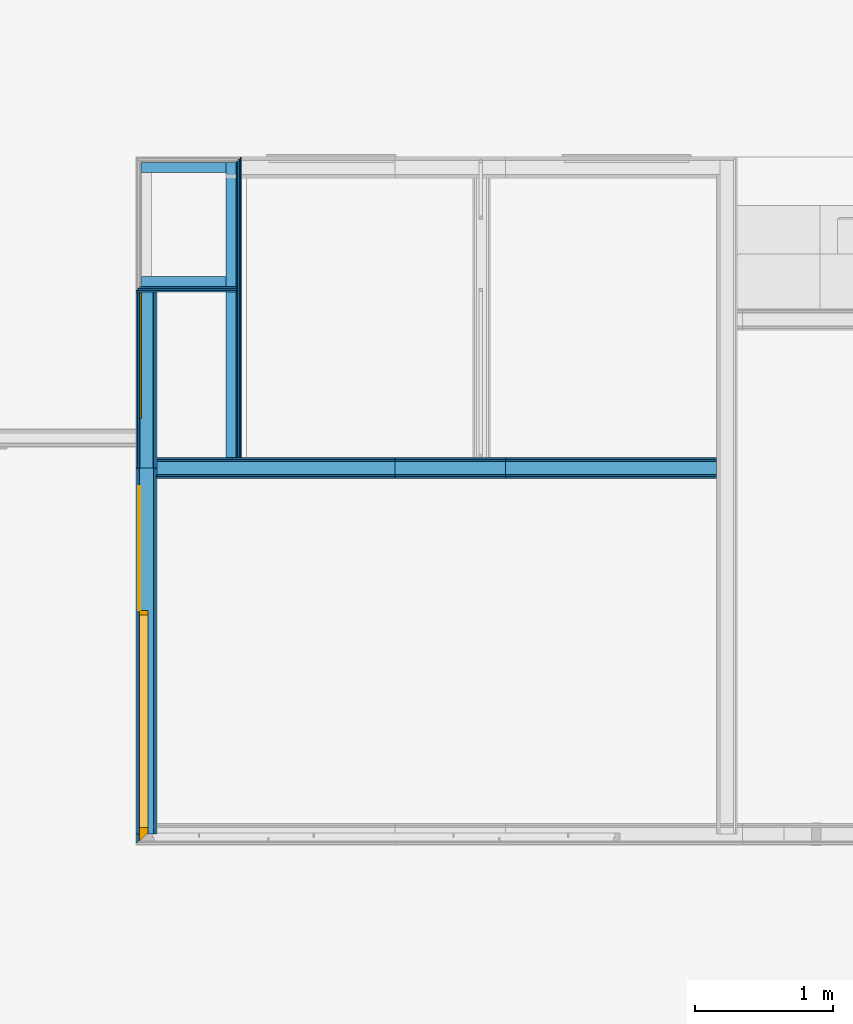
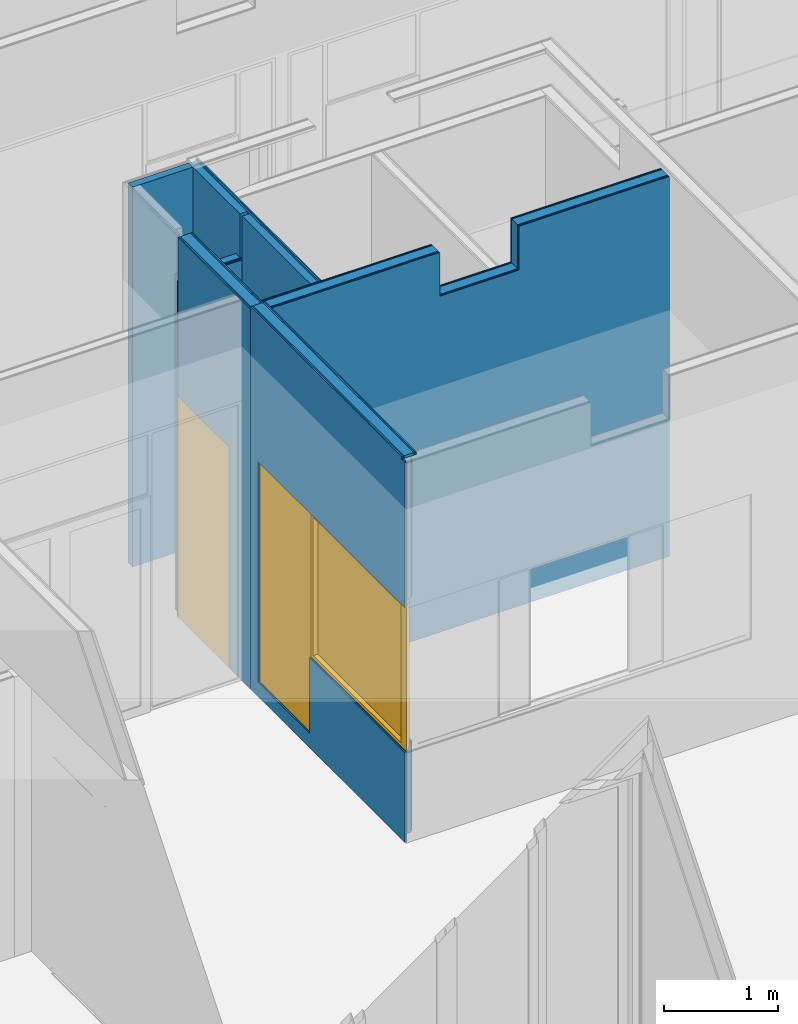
# One storey, part 42 of 109: 24 building element parts, 2 doors, 1 window, 3 openings, 6 elements without a shape of their own.
"""IFC2X3 building model written with IfcOpenShell, lengths in millimetres."""

import ifcopenshell
import ifcopenshell.guid

model = None  # the IFC model being written
_history = None  # IfcOwnerHistory: only IFC2X3 demands one
_inside = {}  # id of a spatial element -> (the spatial element, [elements in it])
_under = {}  # id of a project, library or spatial element -> (it, [spatial elements below it])
_declared = {}  # id of a project -> (the project, [libraries it declares])
_typed = {}  # id of a type object -> (the type object, [elements of that type])
_made_of = {}  # id of a material, layer set ... -> (it, [elements and type objects made of it])


def new_model(schema):
    """Start an empty IFC model of exactly this schema.

    Asked for "IFC4X3", IfcOpenShell would pick the latest addendum, in which some entities
    have other attributes; the version numbers below select the first issue.
    IFC2X3 requires an IfcOwnerHistory on every rooted entity: one is made here for all.
    """
    global model, _history
    if schema == "IFC4X3":
        model = ifcopenshell.file(schema_version=(4, 3, 0, 0))
    else:
        model = ifcopenshell.file(schema=schema)
    _inside.clear()
    _under.clear()
    _declared.clear()
    _typed.clear()
    _made_of.clear()
    _history = None
    if model.schema == "IFC2X3":
        org = make("IfcOrganization", Name="unknown")
        user = make(
            "IfcPersonAndOrganization",
            ThePerson=make("IfcPerson", FamilyName="unknown"),
            TheOrganization=org,
        )
        app = make(
            "IfcApplication",
            ApplicationDeveloper=org,
            Version="unknown",
            ApplicationFullName="unknown",
            ApplicationIdentifier="unknown",
        )
        _history = make(
            "IfcOwnerHistory",
            OwningUser=user,
            OwningApplication=app,
            ChangeAction="ADDED",
            CreationDate=0,
        )
    return model


def make(cls, **values):
    """One entity of the class cls with the attributes given. An attribute that is None is left unset."""
    return model.create_entity(
        cls, **{name: value for name, value in values.items() if value is not None}
    )


def entity(cls, *values):
    """Any entity or typed value of the class cls, its attributes in the order of the schema. None: left unset."""
    e = model.create_entity(cls)
    for i, value in enumerate(values):
        if value is not None:
            e[i] = value
    return e


def rooted(cls, **values):
    """An entity with a GlobalId (a new one), such as an element, a storey or a relation."""
    return make(cls, GlobalId=ifcopenshell.guid.new(), OwnerHistory=_history, **values)


def si_unit(unit_type, name, prefix=None):
    """IfcSIUnit, for example si_unit("LENGTHUNIT", "METRE", prefix="MILLI")."""
    return make("IfcSIUnit", UnitType=unit_type, Prefix=prefix, Name=name)


def converted_unit(unit_type, name, factor, base, dimensions=None, offset=None):
    """IfcConversionBasedUnit, such as the inch: factor (a typed value) times the base unit."""
    return make(
        "IfcConversionBasedUnit"
        if offset is None
        else "IfcConversionBasedUnitWithOffset",
        ConversionOffset=offset,
        Dimensions=None
        if dimensions is None
        else entity("IfcDimensionalExponents", *dimensions),
        UnitType=unit_type,
        Name=name,
        ConversionFactor=make(
            "IfcMeasureWithUnit", ValueComponent=factor, UnitComponent=base
        ),
    )


def derived_unit(unit_type, elements):
    """IfcDerivedUnit: a product of units, each with its exponent."""
    return make(
        "IfcDerivedUnit",
        Elements=[
            make("IfcDerivedUnitElement", Unit=unit, Exponent=power)
            for unit, power in elements
        ],
        UnitType=unit_type,
    )


def money_unit(currency):
    """IfcMonetaryUnit."""
    return make("IfcMonetaryUnit", Currency=currency)


def assignment(units):
    """IfcUnitAssignment: the units of a project."""
    return None if units is None else make("IfcUnitAssignment", Units=units)


def point(xyz):
    """IfcCartesianPoint."""
    return None if xyz is None else make("IfcCartesianPoint", Coordinates=xyz)


def direction(xyz):
    """IfcDirection."""
    return None if xyz is None else make("IfcDirection", DirectionRatios=xyz)


def frame(location, z_axis=None, x_axis=None):
    """IfcAxis2Placement3D, a coordinate frame: its origin and axes. An axis left out is left unset."""
    return make(
        "IfcAxis2Placement3D",
        Location=point(location),
        Axis=direction(z_axis),
        RefDirection=direction(x_axis),
    )


def origin_with_axes():
    """The frame at (0, 0, 0) with the z axis (0, 0, 1) and the x axis (1, 0, 0) written out."""
    return frame((0.0, 0.0, 0.0), z_axis=(0.0, 0.0, 1.0), x_axis=(1.0, 0.0, 0.0))


def place(relative_to, where):
    """IfcLocalPlacement: puts the frame where relative to a parent placement (None: the world)."""
    return make(
        "IfcLocalPlacement", PlacementRelTo=relative_to, RelativePlacement=where
    )


def context(
    kind, dimensions, precision=None, world=None, true_north=None, identifier=None
):
    """IfcGeometricRepresentationContext, for example the 3D "Model" context."""
    return make(
        "IfcGeometricRepresentationContext",
        ContextIdentifier=identifier,
        ContextType=kind,
        CoordinateSpaceDimension=dimensions,
        Precision=precision,
        WorldCoordinateSystem=world,
        TrueNorth=true_north,
    )


def subcontext(parent, identifier, kind, view, scale=None):
    """IfcGeometricRepresentationSubContext, for example "Body" below "Model"."""
    return make(
        "IfcGeometricRepresentationSubContext",
        ContextIdentifier=identifier,
        ContextType=kind,
        ParentContext=parent,
        TargetScale=scale,
        TargetView=view,
    )


def project(units=None, contexts=None):
    """IfcProject with its units and contexts."""
    return rooted(
        "IfcProject",
        Name="project",
        RepresentationContexts=contexts,
        UnitsInContext=assignment(units),
    )


def spatial(cls, under=None, at=None, **own):
    """A site, building, storey or space (cls), placed at a placement, below another one or the project."""
    s = rooted(cls, ObjectPlacement=at, **own)
    if under is not None:
        _under.setdefault(under.id(), (under, []))[1].append(s)
    return s


def faces_of(points, faces, orient=None, outer=None):
    """IfcFace entities. A face is a list of loops; a loop is a list of indices into points, from 0.

    orient and outer hold one flag for each loop. By default every Orientation is true, the
    first loop of a face is its IfcFaceOuterBound and the others are IfcFaceBound.
    """
    made = []
    for i, loops in enumerate(faces):
        bounds = []
        for j, loop in enumerate(loops):
            is_outer = j == 0 if outer is None else outer[i][j]
            bounds.append(
                make(
                    "IfcFaceOuterBound" if is_outer else "IfcFaceBound",
                    Bound=make("IfcPolyLoop", Polygon=[points[k] for k in loop]),
                    Orientation=True if orient is None else orient[i][j],
                )
            )
        made.append(make("IfcFace", Bounds=bounds))
    return made


def open_shell(faces, orient=None, outer=None):
    """The faces of one IfcOpenShell. surface_model builds it on its shared points."""
    return ("IfcOpenShell", faces, orient, outer)


def faceted_brep(points, faces, orient=None, outer=None, voids=None):
    """IfcFacetedBrep: a solid bounded by flat faces; with voids (closed shells), ...WithVoids."""
    shared = [point(p) for p in points]
    hull = make("IfcClosedShell", CfsFaces=faces_of(shared, faces, orient, outer))
    if voids is None:
        return make("IfcFacetedBrep", Outer=hull)
    return make(
        "IfcFacetedBrepWithVoids",
        Outer=hull,
        Voids=[
            make(cls, CfsFaces=faces_of(shared, fs, o, b)) for cls, fs, o, b in voids
        ],
    )


def surface_model(cls, points, shells):
    """IfcFaceBasedSurfaceModel or IfcShellBasedSurfaceModel (cls): surfaces that need not close."""
    shared = [point(p) for p in points]
    made = [make(c, CfsFaces=faces_of(shared, fs, o, b)) for c, fs, o, b in shells]
    if cls == "IfcFaceBasedSurfaceModel":
        return make(cls, FbsmFaces=made)
    return make(cls, SbsmBoundary=made)


def shape(context_of_items, identifier, shape_type, items):
    """IfcShapeRepresentation: the items that make up one representation, for example the "Body"."""
    return make(
        "IfcShapeRepresentation",
        ContextOfItems=context_of_items,
        RepresentationIdentifier=identifier,
        RepresentationType=shape_type,
        Items=items,
    )


def material(Name=None, Category=None):
    """IfcMaterial."""
    return make("IfcMaterial", Name=Name, Category=Category)


def made_of(thing, what):
    """Note that an element or type object is made of a material, layer set ...; save() writes the relation."""
    if what is not None:
        _made_of.setdefault(what.id(), (what, []))[1].append(thing)
    return thing


def type_object(cls, material=None, **own):
    """A type object (cls), such as IfcWallType, which elements share."""
    return made_of(rooted(cls, **own), material)


def element(
    cls,
    number,
    at=None,
    inside=None,
    cuts=None,
    type_object=None,
    material=None,
    context=None,
    identifier="Body",
    shape_type=None,
    held_by="IfcProductDefinitionShape",
    body=None,
    shapes=None,
    **own,
):
    """One element of the class cls, such as IfcWall. Its Tag is "e" and its number.

    at: its placement. inside: the storey or other place that contains it. cuts: it is an
    opening in that element (IfcRelVoidsElement). A single representation is given by context,
    identifier, shape_type and body (its items); several are given by shapes. held_by: the class
    of the entity that holds the representations. save() writes the other relations.
    """
    e = rooted(cls, Tag="e%d" % number, ObjectPlacement=at, **own)
    if body is not None:
        shapes = [shape(context, identifier, shape_type, body)]
    if shapes is not None:
        e.Representation = make(held_by, Representations=shapes)
    if inside is not None:
        _inside.setdefault(inside.id(), (inside, []))[1].append(e)
    if cuts is not None:
        rooted(
            "IfcRelVoidsElement", RelatingBuildingElement=cuts, RelatedOpeningElement=e
        )
    if type_object is not None:
        _typed.setdefault(type_object.id(), (type_object, []))[1].append(e)
    return made_of(e, material)


def fill(opening, filler):
    """IfcRelFillsElement: the door or window that sits in an opening."""
    return rooted(
        "IfcRelFillsElement",
        RelatingOpeningElement=opening,
        RelatedBuildingElement=filler,
    )


def aggregate(whole, parts):
    """IfcRelAggregates: a whole, such as a stair, and the parts it consists of."""
    return rooted("IfcRelAggregates", RelatingObject=whole, RelatedObjects=parts)


def save(model, path):
    """Write the relations noted so far, then the file.

    IfcRelAggregates (storeys below a building ...), IfcRelContainedInSpatialStructure (elements
    in a storey), IfcRelDefinesByType, IfcRelAssociatesMaterial and IfcRelDeclares: one each for
    every whole, place, type object, material and project.
    """
    for whole, parts in _under.values():
        aggregate(whole, parts)
    for where, things in _inside.values():
        rooted(
            "IfcRelContainedInSpatialStructure",
            RelatedElements=things,
            RelatingStructure=where,
        )
    for kind, things in _typed.values():
        rooted("IfcRelDefinesByType", RelatedObjects=things, RelatingType=kind)
    for what, things in _made_of.values():
        rooted("IfcRelAssociatesMaterial", RelatedObjects=things, RelatingMaterial=what)
    for by, libraries in _declared.values():
        rooted("IfcRelDeclares", RelatingContext=by, RelatedDefinitions=libraries)
    model.write(path)


model = new_model("IFC2X3")

# Units and contexts
model_context = context("Model", 3, precision=0.01, world=origin_with_axes(), true_north=direction((0.0, 1.0)))
body_context = subcontext(model_context, "Body", "Model", "MODEL_VIEW")
ifc_project = project(units=[si_unit("LENGTHUNIT", "METRE", prefix="MILLI"), si_unit("AREAUNIT", "SQUARE_METRE"), si_unit("VOLUMEUNIT", "CUBIC_METRE"), converted_unit("PLANEANGLEUNIT", "DEGREE", entity("IfcPlaneAngleMeasure", 0.0174532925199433), si_unit("PLANEANGLEUNIT", "RADIAN"), dimensions=[0, 0, 0, 0, 0, 0, 0]), money_unit("EUR"), converted_unit("TIMEUNIT", "Year", entity("IfcTimeMeasure", 31557600.0), si_unit("TIMEUNIT", "SECOND"), dimensions=[0, 0, 1, 0, 0, 0, 0]), si_unit("MASSUNIT", "GRAM", prefix="KILO"), si_unit("THERMODYNAMICTEMPERATUREUNIT", "DEGREE_CELSIUS"), si_unit("LUMINOUSINTENSITYUNIT", "LUMEN"), si_unit("ENERGYUNIT", "JOULE", prefix="MEGA"), derived_unit("THERMALCONDUCTANCEUNIT", [(si_unit("POWERUNIT", "WATT"), 1), (si_unit("LENGTHUNIT", "METRE"), -1), (si_unit("THERMODYNAMICTEMPERATUREUNIT", "KELVIN"), -1)]), derived_unit("SPECIFICHEATCAPACITYUNIT", [(si_unit("ENERGYUNIT", "JOULE"), 1), (si_unit("MASSUNIT", "GRAM", prefix="KILO"), -1), (si_unit("THERMODYNAMICTEMPERATUREUNIT", "KELVIN"), -1)]), derived_unit("MASSDENSITYUNIT", [(si_unit("MASSUNIT", "GRAM", prefix="KILO"), 1), (si_unit("VOLUMEUNIT", "CUBIC_METRE"), -1)])], contexts=[model_context])

# Site, building, storey
site_placement = place(None, origin_with_axes())
site = spatial("IfcSite", under=ifc_project, at=site_placement, Name="<site naam>", CompositionType="ELEMENT")
building_placement = place(site_placement, origin_with_axes())
building = spatial("IfcBuilding", under=site, at=building_placement, Name="<Naam gebouw>", CompositionType="ELEMENT")
storey_placement = place(building_placement, origin_with_axes())
storey = spatial("IfcBuildingStorey", under=building, at=storey_placement, Name="00 Begane grond", CompositionType="ELEMENT", Elevation=0.0)

# Door
door_style_1 = type_object("IfcDoorStyle", Name="D1 27", ConstructionType="NOTDEFINED", OperationType="SINGLE_SWING_RIGHT", ParameterTakesPrecedence=False, Sizeable=False)
wall_1_placement = place(storey_placement, frame((-199.999999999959, 14450.00000000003, 0.0), z_axis=(0.0, 0.0, 1.0), x_axis=(0.0, -1.0, 0.0)))
opening_2_placement = place(wall_1_placement, frame((579.9576089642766, 0.0, 154.7958172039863), z_axis=(0.0, 0.0, 1.0), x_axis=(1.0, 0.0, 0.0)))
door_1_placement = place(opening_2_placement, frame((449.9999999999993, 0.0, 0.0), z_axis=(0.0, 0.0, 1.0), x_axis=(-1.0, 0.0, 0.0)))
door_1 = element("IfcDoor", 1, at=door_1_placement, inside=storey, type_object=door_style_1, Name="22__305", ObjectType="DOOR", OverallHeight=2362.2, OverallWidth=900.0, context=body_context, shape_type="SurfaceModel", body=[
    surface_model("IfcShellBasedSurfaceModel", [(899.9999999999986, 56.90999999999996, 0.0), (0.0, 56.91000000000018, 0.0), (0.0, 56.91000000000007, 2362.204182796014), (899.9999999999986, 56.90999999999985, 2362.204182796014)], [open_shell([[[0, 1, 2, 3]]])]),
    surface_model("IfcShellBasedSurfaceModel", [(899.9999999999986, 44.90999999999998, 0.0), (899.9999999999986, 44.90999999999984, 2362.204182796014), (0.0, 44.91000000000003, 2362.204182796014), (0.0, 44.91000000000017, 0.0)], [open_shell([[[0, 1, 2, 3]]])]),
])

# Window
window_style = type_object("IfcWindowStyle", Name="R1 27", ConstructionType="NOTDEFINED", OperationType="SINGLE_PANEL", ParameterTakesPrecedence=False, Sizeable=False)
opening_1_placement = place(wall_1_placement, frame((1833.978804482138, 0.0, 965.0), z_axis=(0.0, 0.0, 1.0), x_axis=(1.0, 0.0, 0.0)))
window_placement = place(opening_1_placement, frame((-804.021195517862, 0.0, 0.0), z_axis=(0.0, 0.0, 1.0), x_axis=(1.0, 0.0, 0.0)))
window = element("IfcWindow", 2, at=window_placement, inside=storey, type_object=window_style, Name="22__305", ObjectType="WINDOW", OverallHeight=1552.0, OverallWidth=1608.04, context=body_context, shape_type="SurfaceModel", body=[
    faceted_brep([(1573.042391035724, -55.00000000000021, 35.00000000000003), (1573.042391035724, -55.00000000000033, 1517.0), (1573.042391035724, 11.99999999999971, 1517.0), (1573.042391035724, 11.99999999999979, 35.00000000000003), (1675.042391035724, -55.00000000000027, 35.00000000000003), (1675.042391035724, -55.00000000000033, 1517.0), (1608.042391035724, 11.99999999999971, 1517.0), (1608.042391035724, 11.99999999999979, 35.00000000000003)], [[[0, 1, 2, 3]], [[1, 0, 4, 5]], [[6, 2, 1, 5]], [[2, 6, 7, 3]], [[4, 0, 3, 7]], [[7, 6, 5, 4]]]),
    faceted_brep([(35.00000000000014, -55.00000000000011, 35.00000000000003), (0.0, -55.00000000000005, 35.00000000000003), (0.0, 11.99999999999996, 35.00000000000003), (35.00000000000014, 11.99999999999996, 35.00000000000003), (35.00000000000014, -55.00000000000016, 1517.0), (0.0, -55.00000000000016, 1517.0), (0.0, 11.99999999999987, 1517.0), (35.00000000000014, 11.99999999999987, 1517.0)], [[[0, 1, 2, 3]], [[0, 4, 5, 1]], [[1, 5, 6, 2]], [[3, 2, 6, 7]], [[4, 0, 3, 7]], [[5, 4, 7, 6]]]),
    faceted_brep([(35.00000000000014, 11.99999999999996, 35.00000000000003), (0.0, 11.99999999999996, 35.00000000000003), (0.0, -55.00000000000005, 35.00000000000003), (35.00000000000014, -55.00000000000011, 35.00000000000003), (0.0, 11.99999999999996, 0.0), (1573.042391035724, 11.99999999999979, 35.00000000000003), (1608.042391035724, 11.99999999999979, 35.00000000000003), (1608.042391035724, 11.99999999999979, 0.0), (0.0, -55.00000000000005, 0.0), (1675.042391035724, -55.00000000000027, 0.0), (1675.042391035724, -55.00000000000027, 35.00000000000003), (1573.042391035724, -55.00000000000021, 35.00000000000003)], [[[0, 1, 2, 3]], [[4, 1, 0, 5, 6, 7]], [[4, 8, 2, 1]], [[2, 8, 9, 10, 11, 3]], [[3, 11, 5, 0]], [[6, 5, 11, 10]], [[9, 7, 6, 10]], [[8, 4, 7, 9]]]),
    faceted_brep([(0.0, 11.99999999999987, 1517.0), (35.00000000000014, 11.99999999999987, 1517.0), (35.00000000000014, -55.00000000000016, 1517.0), (0.0, -55.00000000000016, 1517.0), (0.0, 11.99999999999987, 1552.0), (1608.042391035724, 11.99999999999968, 1552.0), (1608.042391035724, 11.99999999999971, 1517.0), (1573.042391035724, 11.99999999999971, 1517.0), (1573.042391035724, -55.00000000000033, 1517.0), (1675.042391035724, -55.00000000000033, 1517.0), (1675.042391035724, -55.00000000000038, 1552.0), (0.0, -55.00000000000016, 1552.0)], [[[0, 1, 2, 3]], [[1, 0, 4, 5, 6, 7]], [[8, 2, 1, 7]], [[3, 2, 8, 9, 10, 11]], [[4, 0, 3, 11]], [[4, 11, 10, 5]], [[10, 9, 6, 5]], [[7, 6, 9, 8]]]),
    surface_model("IfcShellBasedSurfaceModel", [(1573.042391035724, -8.0000000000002, 35.00000000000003), (1573.042391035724, -8.000000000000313, 1517.0), (35.00000000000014, -8.000000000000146, 1517.0), (35.00000000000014, -8.000000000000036, 35.00000000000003)], [open_shell([[[0, 1, 2, 3]]])]),
    surface_model("IfcShellBasedSurfaceModel", [(1573.042391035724, 11.99999999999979, 35.00000000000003), (35.00000000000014, 11.99999999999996, 35.00000000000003), (35.00000000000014, 11.99999999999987, 1517.0), (1573.042391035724, 11.99999999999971, 1517.0)], [open_shell([[[0, 1, 2, 3]]])]),
])

# Door
door_style_2 = type_object("IfcDoorStyle", Name="D1 27", ConstructionType="NOTDEFINED", OperationType="SINGLE_SWING_LEFT", ParameterTakesPrecedence=False, Sizeable=False)
wall_4_placement = place(storey_placement, frame((-199.9999999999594, 15724.66666666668, 0.0), z_axis=(0.0, 0.0, 1.0), x_axis=(0.0, -1.0, 0.0)))
opening_3_placement = place(wall_4_placement, frame((450.0000000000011, 0.0, 0.0), z_axis=(0.0, 0.0, 1.0), x_axis=(1.0, 0.0, 0.0)))
door_2_placement = place(opening_3_placement, frame((449.9999999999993, 0.0, 0.0), z_axis=(0.0, 0.0, 1.0), x_axis=(-1.0, 0.0, 0.0)))
door_2 = element("IfcDoor", 3, at=door_2_placement, inside=storey, type_object=door_style_2, Name="22_BI-A-04_305", ObjectType="DOOR", OverallHeight=2367.0, OverallWidth=900.0, context=body_context, shape_type="Brep", body=[
    faceted_brep([(-17.00000000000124, 75.00000000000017, 0.0), (916.9999999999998, 75.00000000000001, 0.0), (916.9999999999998, 34.99999999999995, 0.0), (-17.00000000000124, 35.0000000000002, 0.0), (-17.00000000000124, 74.99999999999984, 2384.0), (916.9999999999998, 74.99999999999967, 2384.0), (916.9999999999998, 34.99999999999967, 2384.0), (-17.00000000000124, 34.99999999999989, 2384.0)], [[[0, 1, 2, 3]], [[0, 4, 5, 1]], [[1, 5, 6, 2]], [[3, 2, 6, 7]], [[4, 0, 3, 7]], [[5, 4, 7, 6]]]),
])

# Wall, opening
wall_type_1 = type_object("IfcWallType", Name="MS-01 GF 150 ECO DGS/2.100.2.A 150", PredefinedType="NOTDEFINED")
wall_1 = element("IfcWall", 4, at=wall_1_placement, inside=storey, type_object=wall_type_1, Name="22_Binnenwand_MS-01")
opening_1 = element("IfcOpeningElement", 5, at=opening_1_placement, cuts=wall_1, Name="22__305", context=body_context, shape_type="Brep", body=[
    faceted_brep([(871.0211955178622, -55.00000000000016, 1552.0), (-804.021195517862, -54.99999999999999, 1552.0), (-804.021195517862, -76.0000000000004, 1552.0), (891.0211955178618, -76.00000000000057, 1552.0), (891.0211955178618, -75.00000000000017, 1552.0), (740.021195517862, 76.00000000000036, 1552.0), (-804.021195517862, 76.00000000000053, 1552.0), (-804.021195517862, -55.00000000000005, 0.0), (-804.021195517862, -76.00000000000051, 0.0), (891.0211955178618, -76.00000000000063, 0.0), (891.0211955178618, -75.00000000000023, 0.0), (871.0211955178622, -55.00000000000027, 0.0), (740.021195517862, 76.00000000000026, 0.0), (-804.021195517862, 76.00000000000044, 0.0)], [[[0, 1, 2, 3, 4]], [[1, 0, 5, 6]], [[1, 7, 8, 2]], [[2, 8, 9, 3]], [[4, 3, 9, 10]], [[4, 10, 11, 12, 5, 0]], [[12, 13, 6, 5]], [[7, 1, 6, 13]], [[7, 11, 10, 9, 8]], [[11, 7, 13, 12]]]),
])

fill(opening_1, window)

# Opening
opening_2 = element("IfcOpeningElement", 6, at=opening_2_placement, cuts=wall_1, Name="22__305", context=body_context, shape_type="Brep", body=[
    faceted_brep([(449.9999999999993, -35.0, 2362.204182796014), (-449.9999999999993, -34.99999999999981, 2362.204182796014), (-449.9999999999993, -76.00000000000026, 2362.204182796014), (449.9999999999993, -76.00000000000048, 2362.204182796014), (449.9999999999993, 76.00000000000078, 2362.204182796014), (-449.9999999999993, 76.00000000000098, 2362.204182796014), (-449.9999999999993, -34.99999999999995, 0.0), (-449.9999999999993, -76.00000000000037, 0.0), (449.9999999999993, -76.0000000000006, 0.0), (449.9999999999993, -35.00000000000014, 0.0), (449.9999999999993, 76.00000000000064, 0.0), (-449.9999999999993, 76.00000000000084, 0.0)], [[[0, 1, 2, 3]], [[1, 0, 4, 5]], [[1, 6, 7, 2]], [[2, 7, 8, 3]], [[9, 0, 3, 8]], [[0, 9, 10, 4]], [[4, 10, 11, 5]], [[6, 1, 5, 11]], [[6, 9, 8, 7]], [[9, 6, 11, 10]]]),
])

fill(opening_2, door_1)

# Building element part
ifc_material_1 = material(Name="isolatie_steenwol LSW")
building_element_part_1_placement = place(wall_1_placement, origin_with_axes())
building_element_part_1 = element("IfcBuildingElementPart", 7, at=building_element_part_1_placement, material=ifc_material_1, Name="isolatie_steenwol LSW", context=body_context, shape_type="Brep", body=[
    faceted_brep([(2650.000000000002, 49.99999999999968, 4070.0), (2600.000000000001, 49.99999999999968, 4070.0), (2600.000000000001, 49.99999999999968, 0.0), (0.0, 50.00000000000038, 0.0), (0.0, 50.00000000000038, 4100.000044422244), (2650.000000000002, 49.99999999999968, 4100.000044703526), (2600.000000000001, -49.99999999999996, 4070.0), (2650.000000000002, -49.99999999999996, 4070.0), (2600.000000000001, -49.99999999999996, 0.0), (0.0, -50.00000000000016, 0.0), (0.0, -50.00000000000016, 4100.000044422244), (2650.000000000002, -49.99999999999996, 4100.000044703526)], [[[0, 1, 2, 3, 4, 5]], [[6, 1, 0, 7]], [[8, 2, 1, 6]], [[3, 2, 8, 9]], [[9, 10, 4, 3]], [[4, 10, 11, 5]], [[11, 7, 0, 5]], [[8, 6, 7, 11, 10, 9]]]),
])

ifc_material_2 = material(Name="gipsplaat")
building_element_part_2_placement = place(wall_1_placement, origin_with_axes())
building_element_part_2 = element("IfcBuildingElementPart", 8, at=building_element_part_2_placement, material=ifc_material_2, Name="gipsplaat", context=body_context, shape_type="Brep", body=[
    faceted_brep([(2575.000000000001, 75.00000000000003, 4070.0), (2575.000000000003, 75.00000000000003, 0.0), (0.0, 74.99999999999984, 0.0), (0.0, 74.99999999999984, 4100.000044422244), (2650.000000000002, 75.00000000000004, 4100.000044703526), (2650.000000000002, 75.00000000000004, 4070.0), (2575.000000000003, 62.50000000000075, 0.0), (2575.000000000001, 62.49999999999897, 4070.0), (0.0, 62.49999999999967, 0.0), (0.0, 62.50000000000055, 4100.000044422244), (2650.000000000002, 62.49999999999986, 4100.000044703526), (2650.000000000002, 62.49999999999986, 4070.0)], [[[0, 1, 2, 3, 4, 5]], [[6, 1, 0, 7]], [[2, 1, 6, 8]], [[8, 9, 3, 2]], [[3, 9, 10, 4]], [[10, 11, 5, 4]], [[11, 7, 0, 5]], [[6, 7, 11, 10, 9, 8]]]),
])

building_element_part_3_placement = place(wall_1_placement, origin_with_axes())
building_element_part_3 = element("IfcBuildingElementPart", 9, at=building_element_part_3_placement, material=ifc_material_2, Name="gipsplaat", context=body_context, shape_type="Brep", body=[
    faceted_brep([(2587.500000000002, 62.49999999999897, 4070.0), (2587.500000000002, 62.50000000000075, 0.0), (0.0, 62.49999999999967, 0.0), (0.0, 62.50000000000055, 4100.000044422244), (2650.000000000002, 62.49999999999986, 4100.000044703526), (2650.000000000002, 62.49999999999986, 4070.0), (2587.500000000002, 49.99999999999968, 0.0), (2587.500000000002, 49.99999999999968, 4070.0), (0.0, 50.00000000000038, 0.0), (0.0, 50.00000000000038, 4100.000044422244), (2650.000000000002, 49.99999999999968, 4100.000044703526), (2650.000000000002, 49.99999999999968, 4070.0)], [[[0, 1, 2, 3, 4, 5]], [[6, 1, 0, 7]], [[2, 1, 6, 8]], [[8, 9, 3, 2]], [[3, 9, 10, 4]], [[10, 11, 5, 4]], [[11, 7, 0, 5]], [[6, 7, 11, 10, 9, 8]]]),
])

building_element_part_4_placement = place(wall_1_placement, origin_with_axes())
building_element_part_4 = element("IfcBuildingElementPart", 10, at=building_element_part_4_placement, material=ifc_material_2, Name="gipsplaat", context=body_context, shape_type="Brep", body=[
    faceted_brep([(2650.000000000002, -62.50000000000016, 4070.0), (2700.000000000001, -62.49999999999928, 4070.0), (2700.000000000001, -49.99999999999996, 4070.0), (2650.000000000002, -49.99999999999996, 4070.0), (0.0, -62.50000000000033, 0.0), (2700.000000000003, -62.50000000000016, 0.0), (2650.000000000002, -62.50000000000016, 4100.000044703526), (0.0, -62.49999999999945, 4100.000044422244), (2700.000000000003, -49.99999999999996, 0.0), (0.0, -50.00000000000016, 0.0), (0.0, -50.00000000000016, 4100.000044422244), (2650.000000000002, -49.99999999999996, 4100.000044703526)], [[[0, 1, 2, 3]], [[4, 5, 1, 0, 6, 7]], [[5, 8, 2, 1]], [[3, 2, 8, 9, 10, 11]], [[6, 0, 3, 11]], [[9, 8, 5, 4]], [[10, 7, 6, 11]], [[4, 7, 10, 9]]]),
])

building_element_part_5_placement = place(wall_1_placement, origin_with_axes())
building_element_part_5 = element("IfcBuildingElementPart", 11, at=building_element_part_5_placement, material=ifc_material_2, Name="gipsplaat", context=body_context, shape_type="Brep", body=[
    faceted_brep([(2650.000000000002, -75.00000000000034, 4070.0), (2712.500000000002, -75.00000000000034, 4070.0), (2712.500000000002, -62.50000000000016, 4070.0), (2650.000000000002, -62.50000000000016, 4070.0), (0.0, -74.99999999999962, 0.0), (2712.500000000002, -75.00000000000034, 0.0), (2650.000000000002, -75.00000000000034, 4100.000044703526), (0.0, -74.99999999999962, 4100.000044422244), (2712.500000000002, -62.50000000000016, 0.0), (0.0, -62.50000000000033, 0.0), (0.0, -62.49999999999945, 4100.000044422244), (2650.000000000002, -62.50000000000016, 4100.000044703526)], [[[0, 1, 2, 3]], [[4, 5, 1, 0, 6, 7]], [[5, 8, 2, 1]], [[3, 2, 8, 9, 10, 11]], [[6, 0, 3, 11]], [[9, 8, 5, 4]], [[10, 7, 6, 11]], [[4, 7, 10, 9]]]),
])

aggregate(wall_1, [building_element_part_1, building_element_part_2, building_element_part_3, building_element_part_4, building_element_part_5])

# Wall, building element parts
wall_type_2 = type_object("IfcWallType", Name="MS-04 GF 138 V/100.3.A 113", PredefinedType="NOTDEFINED")
wall_2_placement = place(storey_placement, frame((375.0444681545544, 14525.00000000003, 0.0), z_axis=(0.0, 0.0, 1.0), x_axis=(0.0, 1.0, 0.0)))
wall_2 = element("IfcWall", 12, at=wall_2_placement, inside=storey, type_object=wall_type_2, Name="22_Binnenwand_MS-04")
building_element_part_6_placement = place(wall_2_placement, origin_with_axes())
building_element_part_6 = element("IfcBuildingElementPart", 13, at=building_element_part_6_placement, material=ifc_material_1, Name="isolatie_steenwol LSW", context=body_context, shape_type="Brep", body=[
    faceted_brep([(1199.666666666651, -75.00000000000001, 0.0), (0.0, -75.00000000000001, 0.0), (0.0, 0.0, 0.0), (1199.666666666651, 0.0, 0.0), (1199.666666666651, -74.99999999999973, 4070.0), (0.0, -74.99999999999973, 4070.0), (0.0, 0.0, 4070.0), (1199.666666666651, 0.0, 4070.0)], [[[0, 1, 2, 3]], [[4, 5, 1, 0]], [[2, 1, 5, 6]], [[3, 2, 6, 7]], [[3, 7, 4, 0]], [[7, 6, 5, 4]]]),
    faceted_brep([(2137.499987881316, -75.00000000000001, 0.0), (1237.166666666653, -75.00000000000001, 0.0), (1237.166666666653, 0.0, 0.0), (2137.499975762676, 0.0, 0.0), (2137.499987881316, -74.99999999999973, 4070.0), (1237.166666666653, -74.99999999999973, 4070.0), (1237.166666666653, 0.0, 4070.0), (2137.499975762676, 0.0, 4070.0)], [[[0, 1, 2, 3]], [[4, 5, 1, 0]], [[2, 1, 5, 6]], [[3, 2, 6, 7]], [[3, 7, 4, 0]], [[7, 6, 5, 4]]]),
])
building_element_part_7_placement = place(wall_2_placement, origin_with_axes())
building_element_part_7 = element("IfcBuildingElementPart", 14, at=building_element_part_7_placement, material=ifc_material_2, Name="gipsplaat", context=body_context, shape_type="Brep", body=[
    faceted_brep([(2149.99998990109, -87.50000000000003, 0.0), (0.0, -87.50000000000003, 0.0), (0.0, -75.00000000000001, 0.0), (2149.999987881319, -75.00000000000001, 0.0), (2149.99998990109, -87.49999999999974, 4070.0), (0.0, -87.49999999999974, 4070.0), (0.0, -74.99999999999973, 4070.0), (2149.999987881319, -74.99999999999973, 4070.0)], [[[0, 1, 2, 3]], [[4, 5, 1, 0]], [[2, 1, 5, 6]], [[3, 2, 6, 7]], [[3, 7, 4, 0]], [[7, 6, 5, 4]]]),
])
building_element_part_8_placement = place(wall_2_placement, origin_with_axes())
building_element_part_8 = element("IfcBuildingElementPart", 15, at=building_element_part_8_placement, material=ifc_material_2, Name="gipsplaat", context=body_context, shape_type="Brep", body=[
    faceted_brep([(2162.499991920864, -99.99999999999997, 0.0), (0.0, -99.99999999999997, 0.0), (0.0, -87.50000000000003, 0.0), (2162.49998990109, -87.50000000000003, 0.0), (2162.499991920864, -99.99999999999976, 4070.0), (0.0, -99.99999999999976, 4070.0), (0.0, -87.49999999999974, 4070.0), (2162.49998990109, -87.49999999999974, 4070.0)], [[[0, 1, 2, 3]], [[4, 5, 1, 0]], [[2, 1, 5, 6]], [[3, 2, 6, 7]], [[3, 7, 4, 0]], [[7, 6, 5, 4]]]),
])
building_element_part_9_placement = place(wall_2_placement, origin_with_axes())
building_element_part_9 = element("IfcBuildingElementPart", 16, at=building_element_part_9_placement, material=ifc_material_2, Name="gipsplaat", context=body_context, shape_type="Brep", body=[
    faceted_brep([(2174.999993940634, -112.5, 0.0), (0.0, -112.5, 0.0), (0.0, -99.99999999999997, 0.0), (2174.999991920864, -99.99999999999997, 0.0), (2174.999993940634, -112.4999999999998, 4070.0), (0.0, -112.4999999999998, 4070.0), (0.0, -99.99999999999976, 4070.0), (2174.999991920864, -99.99999999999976, 4070.0)], [[[0, 1, 2, 3]], [[4, 5, 1, 0]], [[2, 1, 5, 6]], [[3, 2, 6, 7]], [[3, 7, 4, 0]], [[7, 6, 5, 4]]]),
])
aggregate(wall_2, [building_element_part_6, building_element_part_7, building_element_part_8, building_element_part_9])

wall_3_placement = place(storey_placement, frame((375.0444681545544, 15837.16666666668, 0.0), z_axis=(0.0, 0.0, 1.0), x_axis=(-1.0, 0.0, 0.0)))
wall_3 = element("IfcWall", 17, at=wall_3_placement, inside=storey, type_object=wall_type_2, Name="22_Binnenwand_MS-04")
building_element_part_10_placement = place(wall_3_placement, origin_with_axes())
building_element_part_10 = element("IfcBuildingElementPart", 18, at=building_element_part_10_placement, material=ifc_material_2, Name="gipsplaat", context=body_context, shape_type="Brep", body=[
    faceted_brep([(650.0444519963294, 99.99999999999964, 3600.0), (-74.99999999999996, 99.99999999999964, 3600.0), (-74.99999999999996, 99.99999999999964, 0.0), (650.0444519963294, 99.99999999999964, 0.0), (-74.99999999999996, 112.5000000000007, 3600.0), (650.044449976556, 112.5000000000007, 3600.0), (-74.99999999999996, 112.5000000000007, 0.0), (650.044449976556, 112.5000000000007, 0.0)], [[[0, 1, 2, 3]], [[4, 1, 0, 5]], [[1, 4, 6, 2]], [[7, 3, 2, 6]], [[5, 0, 3, 7]], [[4, 5, 7, 6]]]),
])
building_element_part_11_placement = place(wall_3_placement, origin_with_axes())
building_element_part_11 = element("IfcBuildingElementPart", 19, at=building_element_part_11_placement, material=ifc_material_1, Name="isolatie_steenwol LSW", context=body_context, shape_type="Brep", body=[
    faceted_brep([(612.5444681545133, 0.0, 3600.0), (0.0, 0.0, 3600.0), (0.0, 0.0, 0.0), (612.5444681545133, 0.0, 0.0), (0.0, 75.00000000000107, 3600.0), (612.5444560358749, 75.00000000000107, 3600.0), (0.0, 74.99999999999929, 0.0), (612.5444560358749, 74.99999999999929, 0.0)], [[[0, 1, 2, 3]], [[4, 1, 0, 5]], [[1, 4, 6, 2]], [[7, 3, 2, 6]], [[5, 0, 3, 7]], [[4, 5, 7, 6]]]),
])

# Wall, opening
wall_4 = element("IfcWall", 20, at=wall_4_placement, inside=storey, type_object=wall_type_1, Name="22_Binnenwand_MS-01")
opening_3 = element("IfcOpeningElement", 21, at=opening_3_placement, cuts=wall_4, Name="22_BI-A-04_305", context=body_context, shape_type="Brep", body=[
    faceted_brep([(449.9999999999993, 76.00000000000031, 2367.0), (449.9999999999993, 76.00000000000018, 0.0), (-449.9999999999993, 76.0000000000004, 0.0), (-449.9999999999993, 76.00000000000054, 2367.0), (449.9999999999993, -76.0000000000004, 2367.0), (449.9999999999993, -76.00000000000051, 0.0), (-449.9999999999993, -76.0000000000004, 0.0), (-449.9999999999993, -76.00000000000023, 2367.0)], [[[0, 1, 2, 3]], [[4, 5, 1, 0]], [[5, 6, 2, 1]], [[6, 7, 3, 2]], [[7, 4, 0, 3]], [[6, 5, 4, 7]]]),
])

fill(opening_3, door_2)

# Building element part
building_element_part_12_placement = place(wall_4_placement, origin_with_axes())
building_element_part_12 = element("IfcBuildingElementPart", 22, at=building_element_part_12_placement, material=ifc_material_2, Name="gipsplaat", context=body_context, shape_type="Brep", body=[
    faceted_brep([(0.0, 62.50000000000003, 0.0), (0.0, 75.0000000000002, 0.0), (1274.666666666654, 74.99999999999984, 0.0), (1274.666666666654, 62.50000000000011, 0.0), (0.0, 62.50000000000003, 4070.0), (0.0, 75.0000000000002, 4070.0), (1274.666666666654, 75.00000000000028, 4070.0), (1274.666666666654, 62.50000000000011, 4070.0)], [[[0, 1, 2, 3]], [[4, 5, 1, 0]], [[1, 5, 6, 2]], [[7, 3, 2, 6]], [[4, 0, 3, 7]], [[5, 4, 7, 6]]]),
])

building_element_part_13_placement = place(wall_4_placement, origin_with_axes())
building_element_part_13 = element("IfcBuildingElementPart", 23, at=building_element_part_13_placement, material=ifc_material_2, Name="gipsplaat", context=body_context, shape_type="Brep", body=[
    faceted_brep([(0.0, 62.5, 0.0), (1274.666666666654, 62.49999999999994, 0.0), (1274.666666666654, 49.99999999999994, 0.0), (0.0, 50.00000000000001, 0.0), (0.0, 62.50000000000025, 4070.0), (1274.666666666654, 62.50000000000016, 4070.0), (1274.666666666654, 50.00000000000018, 4070.0), (0.0, 50.00000000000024, 4070.0)], [[[0, 1, 2, 3]], [[4, 5, 1, 0]], [[2, 1, 5, 6]], [[3, 2, 6, 7]], [[4, 0, 3, 7]], [[7, 6, 5, 4]]]),
])

building_element_part_14_placement = place(wall_3_placement, origin_with_axes())
building_element_part_14 = element("IfcBuildingElementPart", 24, at=building_element_part_14_placement, material=ifc_material_2, Name="gipsplaat", context=body_context, shape_type="Brep", body=[
    faceted_brep([(637.5444540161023, 87.50000000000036, 3600.0), (-74.99999999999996, 87.50000000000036, 3600.0), (-74.99999999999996, 87.50000000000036, 0.0), (637.5444540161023, 87.50000000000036, 0.0), (-74.99999999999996, 99.99999999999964, 3600.0), (637.5444519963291, 99.99999999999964, 3600.0), (-74.99999999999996, 99.99999999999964, 0.0), (637.5444519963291, 99.99999999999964, 0.0)], [[[0, 1, 2, 3]], [[4, 1, 0, 5]], [[1, 4, 6, 2]], [[7, 3, 2, 6]], [[5, 0, 3, 7]], [[4, 5, 7, 6]]]),
])

building_element_part_15_placement = place(wall_4_placement, origin_with_axes())
building_element_part_15 = element("IfcBuildingElementPart", 25, at=building_element_part_15_placement, material=ifc_material_2, Name="gipsplaat", context=body_context, shape_type="Brep", body=[
    faceted_brep([(0.0, -62.5, 0.0), (1274.666666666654, -62.50000000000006, 0.0), (1274.666666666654, -75.00000000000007, 0.0), (0.0, -75.00000000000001, 0.0), (0.0, -62.49999999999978, 4070.0), (1274.666666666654, -62.49999999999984, 4070.0), (1274.666666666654, -74.99999999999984, 4070.0), (0.0, -74.99999999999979, 4070.0)], [[[0, 1, 2, 3]], [[4, 5, 1, 0]], [[2, 1, 5, 6]], [[3, 2, 6, 7]], [[4, 0, 3, 7]], [[7, 6, 5, 4]]]),
])

building_element_part_16_placement = place(wall_4_placement, origin_with_axes())
building_element_part_16 = element("IfcBuildingElementPart", 26, at=building_element_part_16_placement, material=ifc_material_1, Name="isolatie_steenwol LSW", context=body_context, shape_type="Brep", body=[
    faceted_brep([(0.0, 50.00000000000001, 0.0), (1274.666666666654, 49.99999999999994, 0.0), (1274.666666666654, -50.00000000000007, 0.0), (0.0, -50.00000000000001, 0.0), (0.0, 50.00000000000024, 4070.0), (1274.666666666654, 50.00000000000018, 4070.0), (1274.666666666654, -49.99999999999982, 4070.0), (0.0, -49.99999999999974, 4070.0)], [[[0, 1, 2, 3]], [[4, 5, 1, 0]], [[2, 1, 5, 6]], [[3, 2, 6, 7]], [[4, 0, 3, 7]], [[7, 6, 5, 4]]]),
])

building_element_part_17_placement = place(wall_4_placement, origin_with_axes())
building_element_part_17 = element("IfcBuildingElementPart", 27, at=building_element_part_17_placement, material=ifc_material_2, Name="gipsplaat", context=body_context, shape_type="Brep", body=[
    faceted_brep([(0.0, -50.00000000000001, 0.0), (1274.666666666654, -50.00000000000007, 0.0), (1274.666666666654, -62.50000000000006, 0.0), (0.0, -62.5, 0.0), (0.0, -49.99999999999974, 4070.0), (1274.666666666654, -49.99999999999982, 4070.0), (1274.666666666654, -62.49999999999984, 4070.0), (0.0, -62.49999999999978, 4070.0)], [[[0, 1, 2, 3]], [[4, 5, 1, 0]], [[2, 1, 5, 6]], [[3, 2, 6, 7]], [[4, 0, 3, 7]], [[7, 6, 5, 4]]]),
])

aggregate(wall_4, [building_element_part_12, building_element_part_13, building_element_part_15, building_element_part_16, building_element_part_17])

building_element_part_18_placement = place(wall_3_placement, origin_with_axes())
building_element_part_18 = element("IfcBuildingElementPart", 28, at=building_element_part_18_placement, material=ifc_material_2, Name="gipsplaat", context=body_context, shape_type="Brep", body=[
    faceted_brep([(625.044456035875, 75.00000000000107, 3600.0), (-74.99999999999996, 75.00000000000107, 3600.0), (-74.99999999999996, 74.99999999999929, 0.0), (625.044456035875, 74.99999999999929, 0.0), (-74.99999999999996, 87.50000000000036, 3600.0), (625.0444540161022, 87.50000000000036, 3600.0), (-74.99999999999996, 87.50000000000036, 0.0), (625.0444540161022, 87.50000000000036, 0.0)], [[[0, 1, 2, 3]], [[4, 1, 0, 5]], [[1, 4, 6, 2]], [[7, 3, 2, 6]], [[5, 0, 3, 7]], [[4, 5, 7, 6]]]),
])

aggregate(wall_3, [building_element_part_10, building_element_part_11, building_element_part_14, building_element_part_18])

# Wall, building element part
wall_5_placement = place(storey_placement, frame((375.0444681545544, 16699.9999757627, 0.0), z_axis=(0.0, 0.0, 1.0), x_axis=(-0.999999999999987, -1.615818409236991e-07, 0.0)))
wall_5 = element("IfcWall", 29, at=wall_5_placement, inside=storey, type_object=wall_type_2, Name="22_Binnenwand_MS-04")
building_element_part_19_placement = place(wall_5_placement, origin_with_axes())
building_element_part_19 = element("IfcBuildingElementPart", 30, at=building_element_part_19_placement, material=ifc_material_1, Name="isolatie_steenwol LSW", context=body_context, shape_type="Brep", body=[
    faceted_brep([(612.5446075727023, 37.49999999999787, 0.0), (6.059319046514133e-06, 37.49999999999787, 0.0), (1.817795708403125e-05, 112.4999999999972, 0.0), (612.544607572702, 112.4999999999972, 0.0), (612.5446075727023, 37.50000000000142, 4070.0), (6.059319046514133e-06, 37.50000000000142, 4070.0), (1.817795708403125e-05, 112.4999999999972, 4070.0), (612.544607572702, 112.4999999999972, 4070.0)], [[[0, 1, 2, 3]], [[4, 5, 1, 0]], [[2, 1, 5, 6]], [[3, 2, 6, 7]], [[3, 7, 4, 0]], [[7, 6, 5, 4]]]),
])
aggregate(wall_5, [building_element_part_19])

# Wall, building element parts
wall_6_placement = place(storey_placement, frame((-199.9999999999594, 14450.00000000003, 0.0), z_axis=(0.0, 0.0, 1.0), x_axis=(1.0, 0.0, 0.0)))
wall_6 = element("IfcWall", 31, at=wall_6_placement, inside=storey, type_object=wall_type_1, Name="22_Binnenwand_MS-01")
building_element_part_20_placement = place(wall_6_placement, origin_with_axes())
building_element_part_20 = element("IfcBuildingElementPart", 32, at=building_element_part_20_placement, material=ifc_material_2, Name="gipsplaat", context=body_context, shape_type="Brep", body=[
    faceted_brep([(1799.999999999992, 74.99999999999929, 3600.0), (2599.999999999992, 74.99999999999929, 3600.0), (2599.999999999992, 75.00000000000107, 4070.0), (4124.999999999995, 75.00000000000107, 4070.0), (4124.999999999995, 75.00000000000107, 0.0), (75.00000000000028, 74.99999999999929, 0.0), (75.00000000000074, 75.00000000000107, 4070.0), (1799.999999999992, 75.00000000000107, 4070.0), (1799.999999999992, 62.5, 3600.0), (2599.999999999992, 62.5, 3600.0), (2599.999999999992, 62.5, 4070.0), (4124.999999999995, 62.5, 4070.0), (4124.999999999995, 62.5, 0.0), (75.00000000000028, 62.5, 0.0), (75.00000000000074, 62.5, 4070.0), (1799.999999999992, 62.5, 4070.0)], [[[0, 1, 2, 3, 4, 5, 6, 7]], [[1, 0, 8, 9]], [[10, 2, 1, 9]], [[2, 10, 11, 3]], [[12, 4, 3, 11]], [[12, 13, 5, 4]], [[13, 14, 6, 5]], [[15, 7, 6, 14]], [[0, 7, 15, 8]], [[8, 15, 14, 13, 12, 11, 10, 9]]]),
])
building_element_part_21_placement = place(wall_6_placement, origin_with_axes())
building_element_part_21 = element("IfcBuildingElementPart", 33, at=building_element_part_21_placement, material=ifc_material_2, Name="gipsplaat", context=body_context, shape_type="Brep", body=[
    faceted_brep([(1799.999999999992, 62.5, 3600.0), (2599.999999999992, 62.5, 3600.0), (2599.999999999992, 62.5, 4070.0), (4124.999999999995, 62.5, 4070.0), (4124.999999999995, 62.5, 0.0), (75.00000000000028, 62.5, 0.0), (75.00000000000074, 62.5, 4070.0), (1799.999999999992, 62.5, 4070.0), (1799.999999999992, 50.00000000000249, 3600.0), (2599.999999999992, 50.00000000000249, 3600.0), (2599.999999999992, 50.00000000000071, 4070.0), (4124.999999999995, 50.00000000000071, 4070.0), (4124.999999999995, 50.00000000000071, 0.0), (75.00000000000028, 50.00000000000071, 0.0), (75.00000000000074, 50.00000000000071, 4070.0), (1799.999999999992, 50.00000000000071, 4070.0)], [[[0, 1, 2, 3, 4, 5, 6, 7]], [[1, 0, 8, 9]], [[10, 2, 1, 9]], [[2, 10, 11, 3]], [[12, 4, 3, 11]], [[12, 13, 5, 4]], [[13, 14, 6, 5]], [[15, 7, 6, 14]], [[0, 7, 15, 8]], [[8, 15, 14, 13, 12, 11, 10, 9]]]),
])
building_element_part_22_placement = place(wall_6_placement, origin_with_axes())
building_element_part_22 = element("IfcBuildingElementPart", 34, at=building_element_part_22_placement, material=ifc_material_2, Name="gipsplaat", context=body_context, shape_type="Brep", body=[
    faceted_brep([(1799.999999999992, -50.00000000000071, 3600.0), (2599.999999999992, -50.00000000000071, 3600.0), (2599.999999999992, -49.99999999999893, 4070.0), (4124.999999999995, -49.99999999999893, 4070.0), (4124.999999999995, -49.99999999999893, 0.0), (75.00000000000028, -50.00000000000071, 0.0), (75.00000000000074, -49.99999999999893, 4070.0), (1799.999999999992, -49.99999999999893, 4070.0), (1799.999999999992, -62.5, 3600.0), (2599.999999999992, -62.5, 3600.0), (2599.999999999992, -62.5, 4070.0), (4124.999999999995, -62.5, 4070.0), (4124.999999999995, -62.5, 0.0), (75.00000000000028, -62.5, 0.0), (75.00000000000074, -62.5, 4070.0), (1799.999999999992, -62.5, 4070.0)], [[[0, 1, 2, 3, 4, 5, 6, 7]], [[1, 0, 8, 9]], [[10, 2, 1, 9]], [[2, 10, 11, 3]], [[12, 4, 3, 11]], [[12, 13, 5, 4]], [[13, 14, 6, 5]], [[15, 7, 6, 14]], [[0, 7, 15, 8]], [[8, 15, 14, 13, 12, 11, 10, 9]]]),
])
building_element_part_23_placement = place(wall_6_placement, origin_with_axes())
building_element_part_23 = element("IfcBuildingElementPart", 35, at=building_element_part_23_placement, material=ifc_material_1, Name="isolatie_steenwol LSW", context=body_context, shape_type="Brep", body=[
    faceted_brep([(1799.999999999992, 50.00000000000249, 3600.0), (2599.999999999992, 50.00000000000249, 3600.0), (2599.999999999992, 50.00000000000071, 4070.0), (4124.999999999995, 50.00000000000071, 4070.0), (4124.999999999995, 50.00000000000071, 0.0), (75.00000000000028, 50.00000000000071, 0.0), (75.00000000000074, 50.00000000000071, 4070.0), (1799.999999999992, 50.00000000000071, 4070.0), (1799.999999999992, -49.99999999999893, 3600.0), (2599.999999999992, -49.99999999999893, 3600.0), (2599.999999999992, -49.99999999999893, 4070.0), (4124.999999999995, -49.99999999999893, 4070.0), (4124.999999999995, -49.99999999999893, 0.0), (75.00000000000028, -50.00000000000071, 0.0), (75.00000000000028, 0.0, 0.0), (75.00000000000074, 0.0, 4070.0), (1799.999999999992, -49.99999999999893, 4070.0), (75.00000000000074, -49.99999999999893, 4070.0)], [[[0, 1, 2, 3, 4, 5, 6, 7]], [[1, 0, 8, 9]], [[10, 2, 1, 9]], [[2, 10, 11, 3]], [[12, 4, 3, 11]], [[13, 14, 5, 4, 12]], [[14, 15, 6, 5]], [[16, 7, 6, 15, 17]], [[0, 7, 16, 8]], [[8, 16, 17, 13, 12, 11, 10, 9]], [[13, 17, 15, 14]]]),
])
building_element_part_24_placement = place(wall_6_placement, origin_with_axes())
building_element_part_24 = element("IfcBuildingElementPart", 36, at=building_element_part_24_placement, material=ifc_material_2, Name="gipsplaat", context=body_context, shape_type="Brep", body=[
    faceted_brep([(1799.999999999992, -62.5, 3600.0), (2599.999999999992, -62.5, 3600.0), (2599.999999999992, -62.5, 4070.0), (4124.999999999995, -62.5, 4070.0), (4124.999999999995, -62.5, 0.0), (75.00000000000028, -62.5, 0.0), (75.00000000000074, -62.5, 4070.0), (1799.999999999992, -62.5, 4070.0), (1799.999999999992, -74.99999999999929, 3600.0), (2599.999999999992, -74.99999999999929, 3600.0), (2599.999999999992, -74.99999999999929, 4070.0), (4124.999999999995, -74.99999999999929, 4070.0), (4124.999999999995, -74.99999999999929, 0.0), (75.00000000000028, -74.99999999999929, 0.0), (75.00000000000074, -74.99999999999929, 4070.0), (1799.999999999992, -74.99999999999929, 4070.0)], [[[0, 1, 2, 3, 4, 5, 6, 7]], [[1, 0, 8, 9]], [[10, 2, 1, 9]], [[2, 10, 11, 3]], [[12, 4, 3, 11]], [[12, 13, 5, 4]], [[13, 14, 6, 5]], [[15, 7, 6, 14]], [[0, 7, 15, 8]], [[8, 15, 14, 13, 12, 11, 10, 9]]]),
])
aggregate(wall_6, [building_element_part_20, building_element_part_21, building_element_part_22, building_element_part_23, building_element_part_24])

save(model, "model.ifc")
